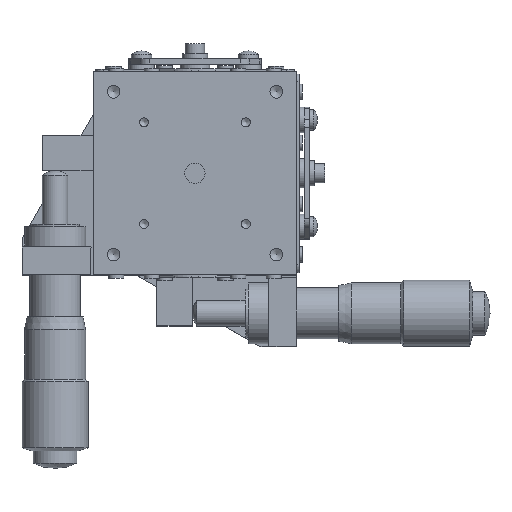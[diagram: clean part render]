
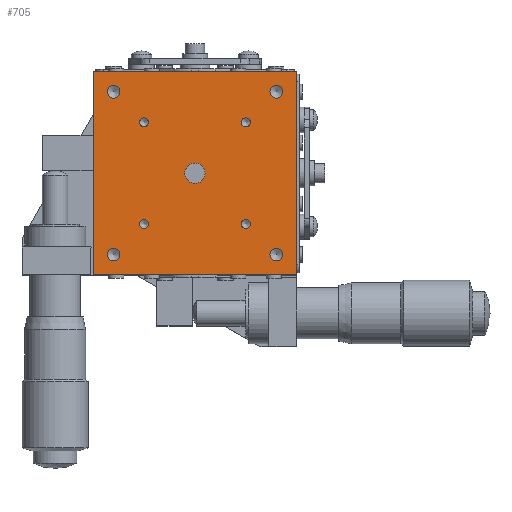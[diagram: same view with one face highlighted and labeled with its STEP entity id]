
A CAD part, top view. The second image highlights one B-rep face of the part: STEP entity #705.
In plain terms, the highlighted planar face has unit normal (0, 0, 1).
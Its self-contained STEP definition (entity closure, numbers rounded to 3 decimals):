
#705 = ADVANCED_FACE( '', ( #1745, #1746, #1747, #1748, #1749, #1750, #1751, #1752, #1753, #1754 ), #1755, .T. );
#1745 = FACE_BOUND( '', #2896, .T. );
#1746 = FACE_BOUND( '', #2897, .T. );
#1747 = FACE_BOUND( '', #2898, .T. );
#1748 = FACE_BOUND( '', #2899, .T. );
#1749 = FACE_BOUND( '', #2900, .T. );
#1750 = FACE_BOUND( '', #2901, .T. );
#1751 = FACE_BOUND( '', #2902, .T. );
#1752 = FACE_BOUND( '', #2903, .T. );
#1753 = FACE_OUTER_BOUND( '', #2904, .T. );
#1754 = FACE_BOUND( '', #2905, .T. );
#1755 = PLANE( '', #2906 );
#2896 = EDGE_LOOP( '', ( #5933 ) );
#2897 = EDGE_LOOP( '', ( #5934 ) );
#2898 = EDGE_LOOP( '', ( #5935 ) );
#2899 = EDGE_LOOP( '', ( #5936 ) );
#2900 = EDGE_LOOP( '', ( #5937 ) );
#2901 = EDGE_LOOP( '', ( #5938 ) );
#2902 = EDGE_LOOP( '', ( #5939 ) );
#2903 = EDGE_LOOP( '', ( #5940 ) );
#2904 = EDGE_LOOP( '', ( #5941, #5942, #5943, #5944 ) );
#2905 = EDGE_LOOP( '', ( #5945 ) );
#2906 = AXIS2_PLACEMENT_3D( '', #5946, #5947, #5948 );
#5933 = ORIENTED_EDGE( '', *, *, #7182, .F. );
#5934 = ORIENTED_EDGE( '', *, *, #7183, .F. );
#5935 = ORIENTED_EDGE( '', *, *, #7142, .F. );
#5936 = ORIENTED_EDGE( '', *, *, #7145, .F. );
#5937 = ORIENTED_EDGE( '', *, *, #7149, .F. );
#5938 = ORIENTED_EDGE( '', *, *, #7153, .F. );
#5939 = ORIENTED_EDGE( '', *, *, #7157, .F. );
#5940 = ORIENTED_EDGE( '', *, *, #7161, .F. );
#5941 = ORIENTED_EDGE( '', *, *, #7184, .F. );
#5942 = ORIENTED_EDGE( '', *, *, #7185, .F. );
#5943 = ORIENTED_EDGE( '', *, *, #7186, .F. );
#5944 = ORIENTED_EDGE( '', *, *, #7118, .F. );
#5945 = ORIENTED_EDGE( '', *, *, #7171, .T. );
#5946 = CARTESIAN_POINT( '', ( 0., 0., 40. ) );
#5947 = DIRECTION( '', ( 0., 0., 1. ) );
#5948 = DIRECTION( '', ( 1., 0., 0. ) );
#7118 = EDGE_CURVE( '', #8639, #8641, #8642, .T. );
#7142 = EDGE_CURVE( '', #8684, #8684, #8685, .T. );
#7145 = EDGE_CURVE( '', #8690, #8690, #8691, .T. );
#7149 = EDGE_CURVE( '', #8696, #8696, #8697, .T. );
#7153 = EDGE_CURVE( '', #8702, #8702, #8703, .T. );
#7157 = EDGE_CURVE( '', #8708, #8708, #8709, .T. );
#7161 = EDGE_CURVE( '', #8714, #8714, #8715, .T. );
#7171 = EDGE_CURVE( '', #8734, #8734, #8735, .T. );
#7182 = EDGE_CURVE( '', #8755, #8755, #8756, .T. );
#7183 = EDGE_CURVE( '', #8757, #8757, #8758, .T. );
#7184 = EDGE_CURVE( '', #8759, #8639, #8760, .T. );
#7185 = EDGE_CURVE( '', #8761, #8759, #8762, .T. );
#7186 = EDGE_CURVE( '', #8641, #8761, #8763, .T. );
#8639 = VERTEX_POINT( '', #11568 );
#8641 = VERTEX_POINT( '', #11571 );
#8642 = LINE( '', #11572, #11573 );
#8684 = VERTEX_POINT( '', #11856 );
#8685 = CIRCLE( '', #11857, 0.875 );
#8690 = VERTEX_POINT( '', #11862 );
#8691 = CIRCLE( '', #11863, 0.875 );
#8696 = VERTEX_POINT( '', #11868 );
#8697 = CIRCLE( '', #11869, 1.25 );
#8702 = VERTEX_POINT( '', #11874 );
#8703 = CIRCLE( '', #11875, 1.25 );
#8708 = VERTEX_POINT( '', #11880 );
#8709 = CIRCLE( '', #11881, 1.25 );
#8714 = VERTEX_POINT( '', #11886 );
#8715 = CIRCLE( '', #11887, 1.25 );
#8734 = VERTEX_POINT( '', #11908 );
#8735 = CIRCLE( '', #11909, 2. );
#8755 = VERTEX_POINT( '', #11932 );
#8756 = CIRCLE( '', #11933, 0.875 );
#8757 = VERTEX_POINT( '', #11934 );
#8758 = CIRCLE( '', #11935, 0.875 );
#8759 = VERTEX_POINT( '', #11936 );
#8760 = LINE( '', #11937, #11938 );
#8761 = VERTEX_POINT( '', #11939 );
#8762 = LINE( '', #11940, #11941 );
#8763 = LINE( '', #11942, #11943 );
#11568 = CARTESIAN_POINT( '', ( -20., -20., 40. ) );
#11571 = CARTESIAN_POINT( '', ( -20., 20., 40. ) );
#11572 = CARTESIAN_POINT( '', ( -20., 0., 40. ) );
#11573 = VECTOR( '', #13485, 1000. );
#11856 = CARTESIAN_POINT( '', ( -10., 9.125, 40. ) );
#11857 = AXIS2_PLACEMENT_3D( '', #13517, #13518, #13519 );
#11862 = CARTESIAN_POINT( '', ( -10., -10.875, 40. ) );
#11863 = AXIS2_PLACEMENT_3D( '', #13526, #13527, #13528 );
#11868 = CARTESIAN_POINT( '', ( 16., -17.25, 40. ) );
#11869 = AXIS2_PLACEMENT_3D( '', #13535, #13536, #13537 );
#11874 = CARTESIAN_POINT( '', ( 16., 14.75, 40. ) );
#11875 = AXIS2_PLACEMENT_3D( '', #13544, #13545, #13546 );
#11880 = CARTESIAN_POINT( '', ( -16., 14.75, 40. ) );
#11881 = AXIS2_PLACEMENT_3D( '', #13553, #13554, #13555 );
#11886 = CARTESIAN_POINT( '', ( -16., -17.25, 40. ) );
#11887 = AXIS2_PLACEMENT_3D( '', #13562, #13563, #13564 );
#11908 = CARTESIAN_POINT( '', ( 0., -2., 40. ) );
#11909 = AXIS2_PLACEMENT_3D( '', #13588, #13589, #13590 );
#11932 = CARTESIAN_POINT( '', ( 10., -10.875, 40. ) );
#11933 = AXIS2_PLACEMENT_3D( '', #13615, #13616, #13617 );
#11934 = CARTESIAN_POINT( '', ( 10., 9.125, 40. ) );
#11935 = AXIS2_PLACEMENT_3D( '', #13618, #13619, #13620 );
#11936 = CARTESIAN_POINT( '', ( 20., -20., 40. ) );
#11937 = CARTESIAN_POINT( '', ( 0., -20., 40. ) );
#11938 = VECTOR( '', #13621, 1000. );
#11939 = CARTESIAN_POINT( '', ( 20., 20., 40. ) );
#11940 = CARTESIAN_POINT( '', ( 20., 0., 40. ) );
#11941 = VECTOR( '', #13622, 1000. );
#11942 = CARTESIAN_POINT( '', ( 0., 20., 40. ) );
#11943 = VECTOR( '', #13623, 1000. );
#13485 = DIRECTION( '', ( 0., 1., 0. ) );
#13517 = CARTESIAN_POINT( '', ( -10., 10., 40. ) );
#13518 = DIRECTION( '', ( 0., 0., 1. ) );
#13519 = DIRECTION( '', ( 0., -1., 0. ) );
#13526 = CARTESIAN_POINT( '', ( -10., -10., 40. ) );
#13527 = DIRECTION( '', ( 0., 0., 1. ) );
#13528 = DIRECTION( '', ( 0., -1., 0. ) );
#13535 = CARTESIAN_POINT( '', ( 16., -16., 40. ) );
#13536 = DIRECTION( '', ( 0., 0., 1. ) );
#13537 = DIRECTION( '', ( 0., -1., 0. ) );
#13544 = CARTESIAN_POINT( '', ( 16., 16., 40. ) );
#13545 = DIRECTION( '', ( 0., 0., 1. ) );
#13546 = DIRECTION( '', ( 0., -1., 0. ) );
#13553 = CARTESIAN_POINT( '', ( -16., 16., 40. ) );
#13554 = DIRECTION( '', ( 0., 0., 1. ) );
#13555 = DIRECTION( '', ( 0., -1., 0. ) );
#13562 = CARTESIAN_POINT( '', ( -16., -16., 40. ) );
#13563 = DIRECTION( '', ( 0., 0., 1. ) );
#13564 = DIRECTION( '', ( 0., -1., 0. ) );
#13588 = CARTESIAN_POINT( '', ( 0., 0., 40. ) );
#13589 = DIRECTION( '', ( 0., 0., -1. ) );
#13590 = DIRECTION( '', ( 0., -1., 0. ) );
#13615 = CARTESIAN_POINT( '', ( 10., -10., 40. ) );
#13616 = DIRECTION( '', ( 0., 0., 1. ) );
#13617 = DIRECTION( '', ( 0., -1., 0. ) );
#13618 = CARTESIAN_POINT( '', ( 10., 10., 40. ) );
#13619 = DIRECTION( '', ( 0., 0., 1. ) );
#13620 = DIRECTION( '', ( 0., -1., 0. ) );
#13621 = DIRECTION( '', ( -1., 0., 0. ) );
#13622 = DIRECTION( '', ( 0., -1., 0. ) );
#13623 = DIRECTION( '', ( 1., 0., 0. ) );
